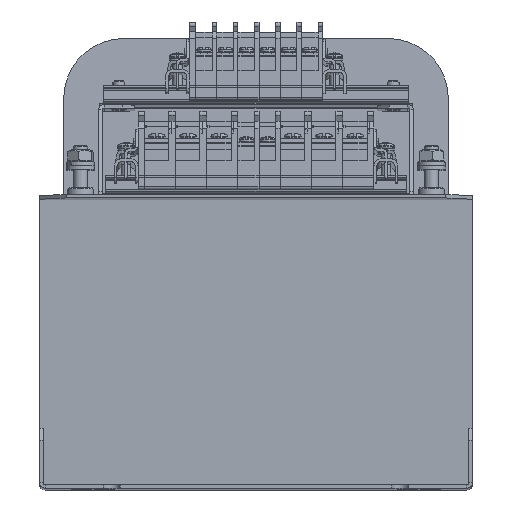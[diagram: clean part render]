
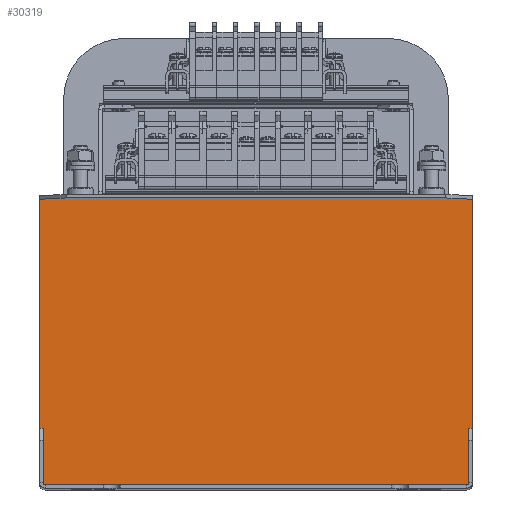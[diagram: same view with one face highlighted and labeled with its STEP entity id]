
A CAD part, top view. The second image highlights one B-rep face of the part: STEP entity #30319.
In plain terms, the highlighted planar face has unit normal (0, 0, 1).
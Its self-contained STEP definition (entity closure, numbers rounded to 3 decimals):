
#30126=CARTESIAN_POINT('',(-90.0,118.528,2.5));
#30127=VERTEX_POINT('',#30126);
#30134=CARTESIAN_POINT('',(90.0,118.528,2.5));
#30135=VERTEX_POINT('',#30134);
#30136=CARTESIAN_POINT('',(90.0,118.528,2.5));
#30137=DIRECTION('',(-1.0,0.0,0.0));
#30138=VECTOR('',#30137,180.0);
#30139=LINE('',#30136,#30138);
#30140=EDGE_CURVE('',#30135,#30127,#30139,.T.);
#30184=CARTESIAN_POINT('',(90.0,0.,2.5));
#30185=VERTEX_POINT('',#30184);
#30186=CARTESIAN_POINT('',(90.0,118.528,2.5));
#30187=DIRECTION('',(0.0,-1.0,0.0));
#30188=VECTOR('',#30187,118.528);
#30189=LINE('',#30186,#30188);
#30190=EDGE_CURVE('',#30135,#30185,#30189,.T.);
#30225=CARTESIAN_POINT('',(-90.0,0.,2.5));
#30226=VERTEX_POINT('',#30225);
#30233=CARTESIAN_POINT('',(-90.0,0.,2.5));
#30234=DIRECTION('',(0.0,1.0,0.0));
#30235=VECTOR('',#30234,118.528);
#30236=LINE('',#30233,#30235);
#30237=EDGE_CURVE('',#30226,#30127,#30236,.T.);
#30298=CARTESIAN_POINT('',(-90.0,0.,2.5));
#30299=DIRECTION('',(1.0,0.0,0.0));
#30300=VECTOR('',#30299,180.0);
#30301=LINE('',#30298,#30300);
#30302=EDGE_CURVE('',#30226,#30185,#30301,.T.);
#30308=CARTESIAN_POINT('',(0.0,120.03,2.5));
#30309=DIRECTION('',(0.0,0.0,1.0));
#30310=DIRECTION('',(1.0,0.0,0.0));
#30311=AXIS2_PLACEMENT_3D('',#30308,#30309,#30310);
#30312=PLANE('',#30311);
#30313=ORIENTED_EDGE('',*,*,#30140,.T.);
#30314=ORIENTED_EDGE('',*,*,#30237,.F.);
#30315=ORIENTED_EDGE('',*,*,#30302,.T.);
#30316=ORIENTED_EDGE('',*,*,#30190,.F.);
#30317=EDGE_LOOP('',(#30313,#30314,#30315,#30316));
#30318=FACE_OUTER_BOUND('',#30317,.T.);
#30319=ADVANCED_FACE('',(#30318),#30312,.T.);
